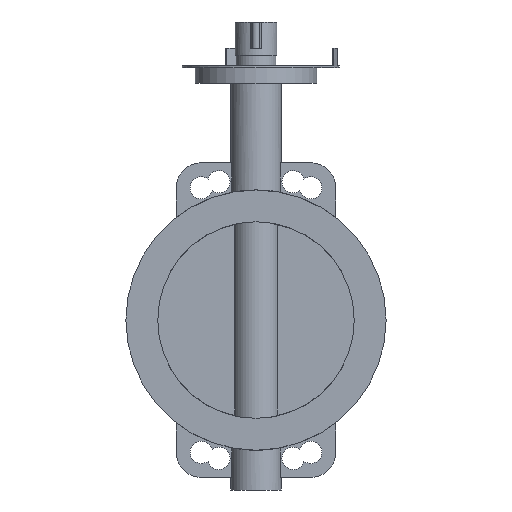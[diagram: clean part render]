
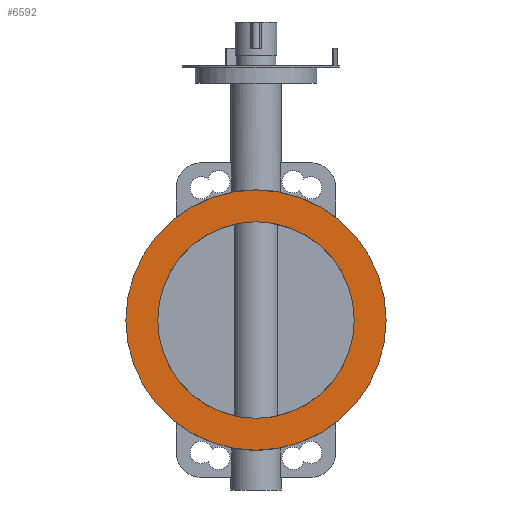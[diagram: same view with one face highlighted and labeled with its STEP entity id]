
A CAD part, left-side view. The second image highlights one B-rep face of the part: STEP entity #6592.
In plain terms, the highlighted planar face has unit normal (-1, 0, 0).
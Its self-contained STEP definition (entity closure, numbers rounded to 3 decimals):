
#6592=ADVANCED_FACE('',(#13172,#13174),#13176,.F.);
#13172=FACE_BOUND('',#13173,.T.);
#13173=EDGE_LOOP('',(#18487));
#13174=FACE_BOUND('',#13175,.T.);
#13175=EDGE_LOOP('',(#18488));
#13176=PLANE('',#13177);
#13177=AXIS2_PLACEMENT_3D('',#13178,#13179,#13180);
#13178=CARTESIAN_POINT('',(-30.,0.,0.));
#13179=DIRECTION('',(1.,0.,0.));
#13180=DIRECTION('',(0.,1.,0.));
#18487=ORIENTED_EDGE('',*,*,#21248,.F.);
#18488=ORIENTED_EDGE('',*,*,#21678,.T.);
#21248=EDGE_CURVE('',#25106,#25106,#25107,.T.);
#21678=EDGE_CURVE('',#25731,#25731,#25732,.T.);
#25106=VERTEX_POINT('',#34090);
#25107=CIRCLE('',#34091,134.);
#25731=VERTEX_POINT('',#35888);
#25732=CIRCLE('',#35889,101.2);
#34090=CARTESIAN_POINT('',(-30.,134.,0.));
#34091=AXIS2_PLACEMENT_3D('',#34092,#34093,#34094);
#34092=CARTESIAN_POINT('',(-30.,0.,0.));
#34093=DIRECTION('',(1.,0.,0.));
#34094=DIRECTION('',(0.,1.,0.));
#35888=CARTESIAN_POINT('',(-30.,101.2,0.));
#35889=AXIS2_PLACEMENT_3D('',#35890,#35891,#35892);
#35890=CARTESIAN_POINT('',(-30.,0.,0.));
#35891=DIRECTION('',(1.,0.,0.));
#35892=DIRECTION('',(0.,1.,0.));
